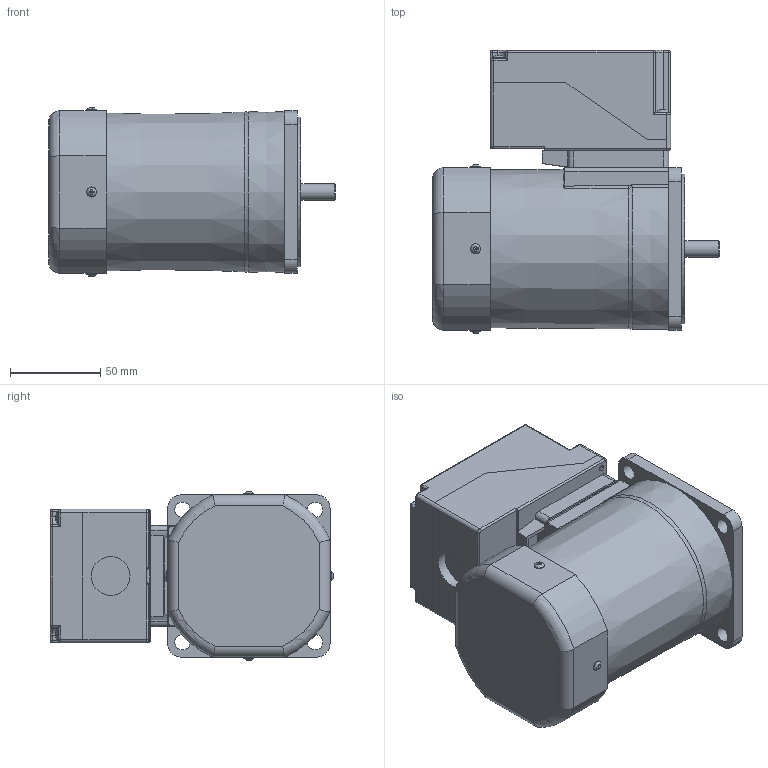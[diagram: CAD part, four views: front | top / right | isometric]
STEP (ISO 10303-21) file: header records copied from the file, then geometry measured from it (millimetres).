
FILE_DESCRIPTION(/* description */ (''),/* implementation_level */ '2;1');
FILE_NAME(/* name */ 'Y:\제품연구개발\3. 도면\3. 고객배포용\3D_홈페이지용\01-1 Standard AC SG Series\04 TERMINAL BOX TYPE MOTORS\REVERSIBLE TERMINAL BOX\SG9R90_-T_\SG9R90G_-T2.stp',/* time_stamp */ '2023-12-07T17:29:08+09:00',/* author */ ('shyi1037'),/* organization */ (''),/* preprocessor_version */ 'ST-DEVELOPER v18.1',/* originating_system */ 'Autodesk Inventor 2022',/* authorisation */ '');
FILE_SCHEMA (('AUTOMOTIVE_DESIGN { 1 0 10303 214 3 1 1 }'));
Length unit declared in the file: millimetre
Products named in the file (1): SG9R90G_-T2
Bounding box: 158.9 x 156.95 x 93.89 mm (x, y, z)
Volume: 1023732 mm3; surface area: 142296.3 mm2
Topology: 1 solids, 9 shells, 937 faces, 2488 edges, 1597 vertices
Faces by surface type: plane 497, cylinder 302, bspline 57, torus 45, cone 24, sphere 12
Full cylindrical faces by diameter (mm): 2.5 x4, 3 x8, 3.2 x3, 3.4 x1, 3.5 x4, 4.2 x1, 4.5 x8, 5.5 x8, 5.6 x4, 6.9 x4, 8.5 x4, 9.33 x1, 21.5 x1, 40 x1, 83 x1
Entity records: 31932 total; most frequent: CARTESIAN_POINT 8086, ORIENTED_EDGE 4938, DIRECTION 4833, EDGE_CURVE 2469, AXIS2_PLACEMENT_3D 1692, VERTEX_POINT 1597, LINE 1449, VECTOR 1449
